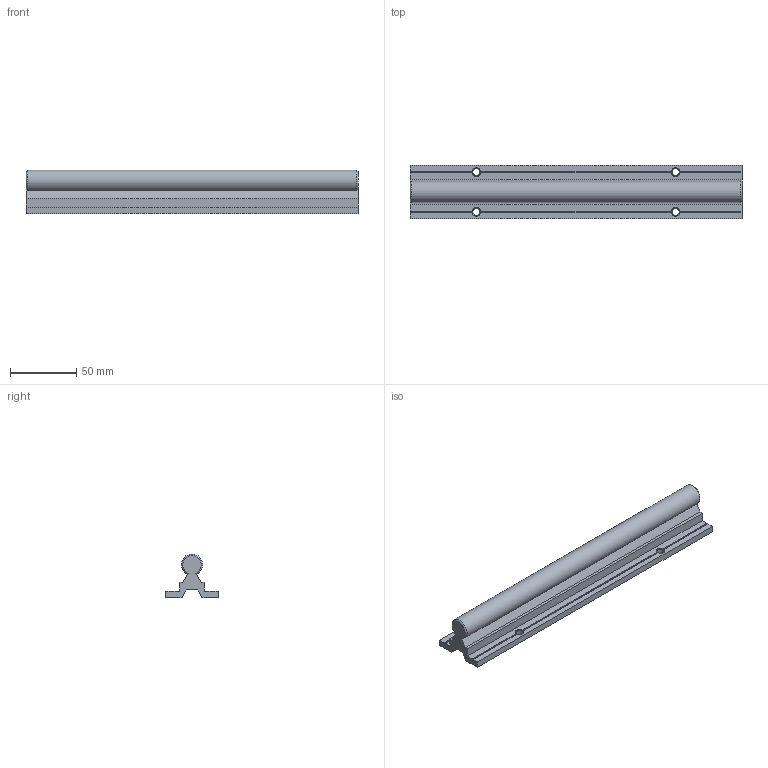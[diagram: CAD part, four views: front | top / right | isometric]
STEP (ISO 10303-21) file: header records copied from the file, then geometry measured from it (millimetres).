
FILE_DESCRIPTION(/* description */ (''),/* implementation_level */ '2;1');
FILE_NAME(/* name */ 'C:\Users\David\Desktop\stepFiles\Profilfuehrung\LFS16x250.stp',/* time_stamp */ '2018-06-24T15:18:08+02:00',/* author */ ('Buskamp'),/* organization */ (''),/* preprocessor_version */ 'ST-DEVELOPER v17',/* originating_system */ 'Autodesk Inventor 2019',/* authorisation */ '');
FILE_SCHEMA (('AUTOMOTIVE_DESIGN { 1 0 10303 214 3 1 1 }'));
Length unit declared in the file: millimetre
Products named in the file (1): Linearführung D16xvariabel
Bounding box: 250 x 40 x 32.97 mm (x, y, z)
Volume: 127556.2 mm3; surface area: 40068.9 mm2
Topology: 1 solids, 1 shells, 52 faces, 150 edges, 96 vertices
Faces by surface type: plane 37, cone 10, cylinder 5
Full cylindrical faces by diameter (mm): 5.5 x4
Entity records: 1733 total; most frequent: CARTESIAN_POINT 339, ORIENTED_EDGE 300, DIRECTION 276, EDGE_CURVE 150, VERTEX_POINT 96, AXIS2_PLACEMENT_3D 93, LINE 90, VECTOR 90
